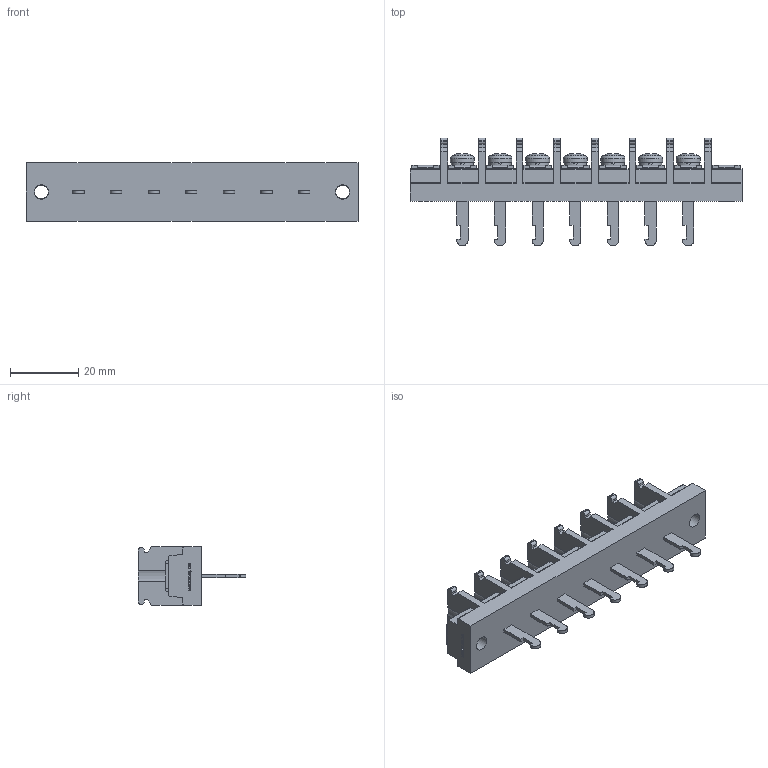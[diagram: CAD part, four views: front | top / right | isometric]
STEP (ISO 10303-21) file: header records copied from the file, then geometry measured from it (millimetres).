
FILE_DESCRIPTION(/* description */ ('Alibre Inc.'),/* implementation_level */ '2;1');
FILE_NAME(/* name */ 'export0',/* time_stamp */ '2015-10-19T20:00:02+09:00',/* author */ (''),/* organization */ (''),/* preprocessor_version */ 'ST-DEVELOPER v14',/* originating_system */ 'Alibre',/* authorisation */ '');
FILE_SCHEMA (('CONFIG_CONTROL_DESIGN'));
Length unit declared in the file: centimetre
Products named in the file (1): ID_1
Bounding box: 97 x 31.5 x 17 mm (x, y, z)
Volume: 17652 mm3; surface area: 10402.3 mm2
Topology: 1 solids, 1 shells, 997 faces, 2771 edges, 1841 vertices
Faces by surface type: plane 710, cylinder 134, bspline 104, cone 28, torus 14, sphere 7
Full cylindrical faces by diameter (mm): 4 x9, 4.2 x2, 6.5 x7, 7 x7
Entity records: 30809 total; most frequent: CARTESIAN_POINT 6643, ORIENTED_EDGE 5432, DIRECTION 3953, EDGE_CURVE 2716, VECTOR 1948, LINE 1948, VERTEX_POINT 1818, AXIS2_PLACEMENT_3D 1349
